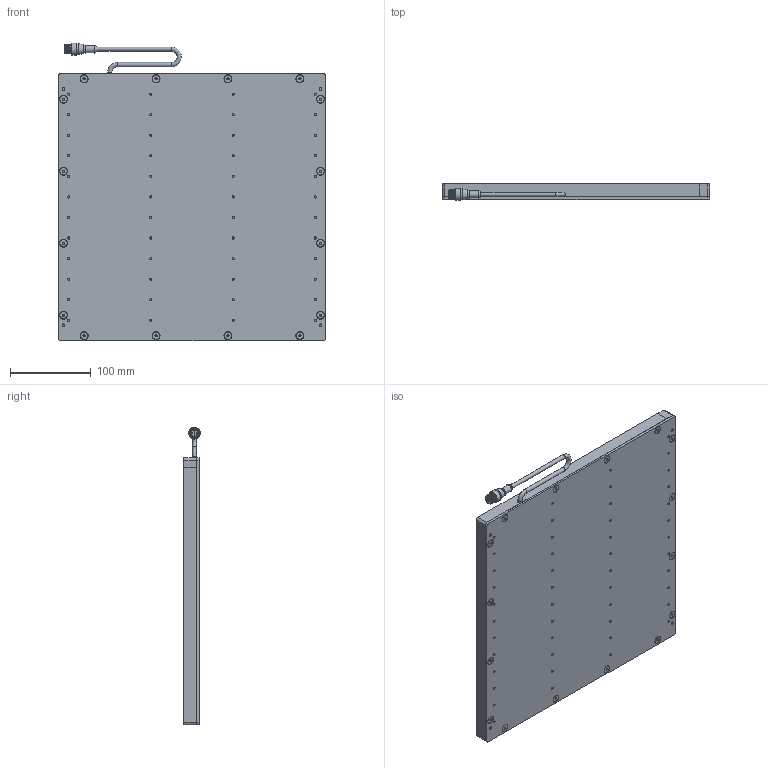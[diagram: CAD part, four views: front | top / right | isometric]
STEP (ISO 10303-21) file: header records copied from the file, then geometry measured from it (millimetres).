
FILE_DESCRIPTION (( 'STEP AP214' ), '1' );
FILE_NAME ('SBLYYXX-XXX-WDC.STEP', '2026-04-15T21:14:41', ( '' ), ( '' ), 'SwSTEP 2.0', 'SolidWorks 2025', '' );
FILE_SCHEMA (( 'AUTOMOTIVE_DESIGN' ));
Length unit declared in the file: inch
Products named in the file (10): BackPlate BLYYXX_1212; MC Pigtail 24; Hex Standoff .375 x 8-32; SBLYYXX-XXX-WDC; 8-32 x 0.375 FHCS (92210A192)_92210A192; SBL3 to 18in rail_12in No CG; WD-SBLYYXX_12x12; SBL3 to 18in rail_12in rail; SC Pigtail Complete 18_5pin; M12 Connector 4,5 and 8 pin_RS4.5T
Assembly tree (41 placements, depth 3):
  SBLYYXX-XXX-WDC
    BackPlate BLYYXX_1212
    SBL3 to 18in rail_12in rail  x2
    SBL3 to 18in rail_12in No CG  x2
    SC Pigtail Complete 18_5pin
      MC Pigtail 24
      M12 Connector 4,5 and 8 pin_RS4.5T
    WD-SBLYYXX_12x12
    Hex Standoff .375 x 8-32  x16
    8-32 x 0.375 FHCS (92210A192)_92210A192  x16
Bounding box: 330.2 x 20.74 x 367.73 mm (x, y, z)
Volume: 886033.9 mm3; surface area: 536025.1 mm2
Topology: 40 solids, 40 shells, 1107 faces, 2575 edges, 1579 vertices
Faces by surface type: plane 438, cylinder 326, cone 259, bspline 48, torus 31, sphere 5
Full cylindrical faces by diameter (mm): 0.762 x5, 2.705 x48, 3.454 x20, 4.496 x32, 5.207 x3, 6.604 x8, 6.858 x16, 8.382 x1, 8.636 x1, 9.119 x16, 10.16 x1, 10.541 x1, 11.938 x1, 13.716 x2, 14.732 x1
Entity records: 14386 total; most frequent: CARTESIAN_POINT 3826, DIRECTION 1996, ORIENTED_EDGE 1532, AXIS2_PLACEMENT_3D 848, EDGE_CURVE 766, EDGE_LOOP 716, VERTEX_POINT 590, FACE_OUTER_BOUND 491
